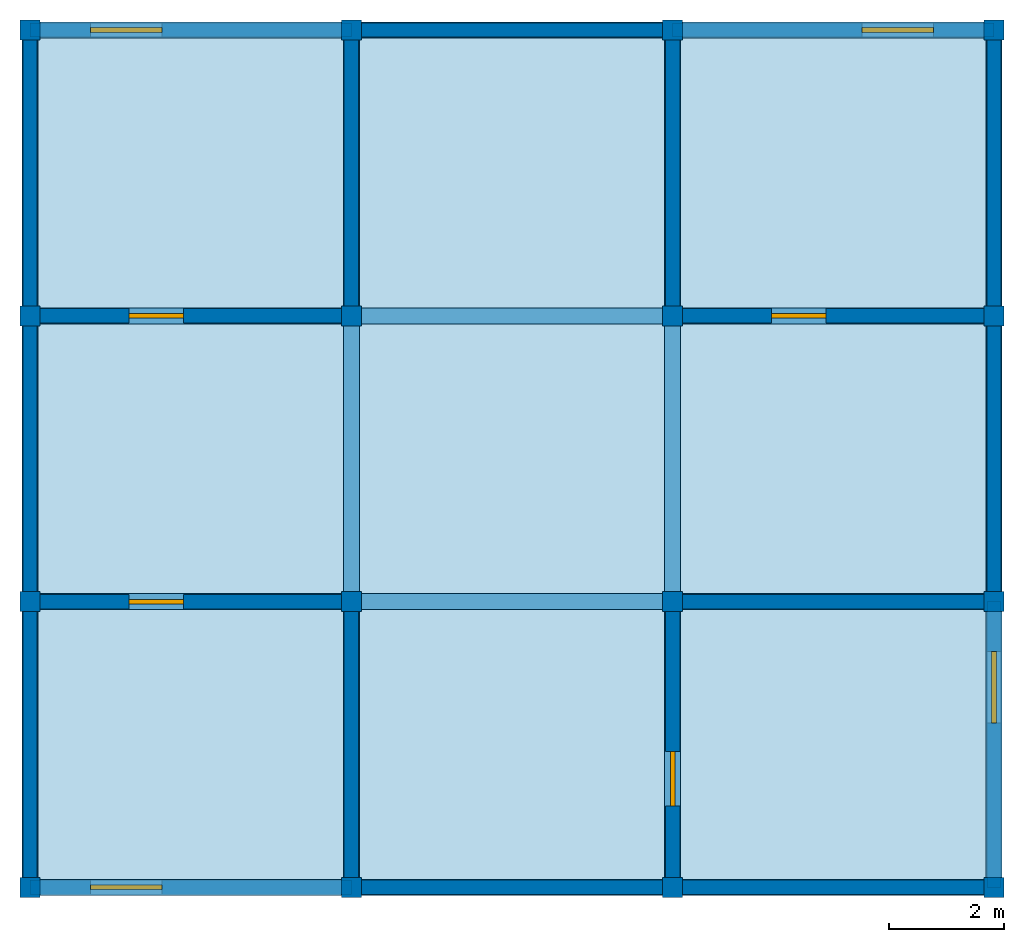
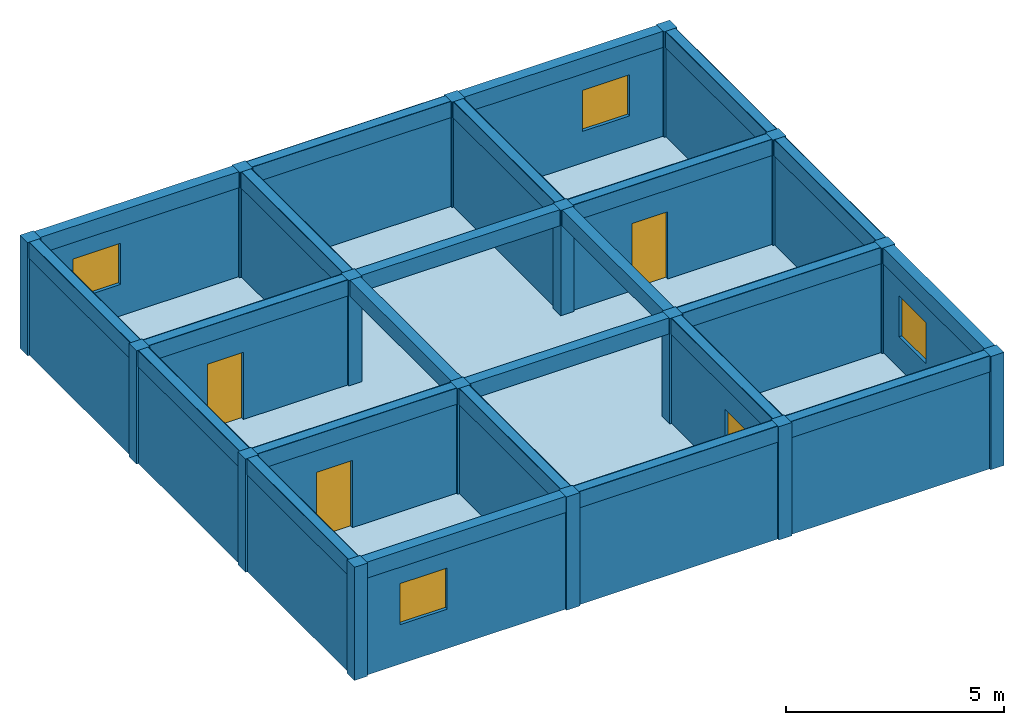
# One storey: 24 beams, 20 walls, 16 columns, 4 doors, 4 windows, 1 slab, 8 openings.
"""IFC4X3 building model written with IfcOpenShell, lengths in metres."""

import ifcopenshell
import ifcopenshell.guid

model = None  # the IFC model being written
_history = None  # IfcOwnerHistory: only IFC2X3 demands one
_inside = {}  # id of a spatial element -> (the spatial element, [elements in it])
_under = {}  # id of a project, library or spatial element -> (it, [spatial elements below it])
_declared = {}  # id of a project -> (the project, [libraries it declares])
_typed = {}  # id of a type object -> (the type object, [elements of that type])
_made_of = {}  # id of a material, layer set ... -> (it, [elements and type objects made of it])


def new_model(schema):
    """Start an empty IFC model of exactly this schema.

    Asked for "IFC4X3", IfcOpenShell would pick the latest addendum, in which some entities
    have other attributes; the version numbers below select the first issue.
    IFC2X3 requires an IfcOwnerHistory on every rooted entity: one is made here for all.
    """
    global model, _history
    if schema == "IFC4X3":
        model = ifcopenshell.file(schema_version=(4, 3, 0, 0))
    else:
        model = ifcopenshell.file(schema=schema)
    _inside.clear()
    _under.clear()
    _declared.clear()
    _typed.clear()
    _made_of.clear()
    _history = None
    if model.schema == "IFC2X3":
        org = make("IfcOrganization", Name="unknown")
        user = make(
            "IfcPersonAndOrganization",
            ThePerson=make("IfcPerson", FamilyName="unknown"),
            TheOrganization=org,
        )
        app = make(
            "IfcApplication",
            ApplicationDeveloper=org,
            Version="unknown",
            ApplicationFullName="unknown",
            ApplicationIdentifier="unknown",
        )
        _history = make(
            "IfcOwnerHistory",
            OwningUser=user,
            OwningApplication=app,
            ChangeAction="ADDED",
            CreationDate=0,
        )
    return model


def make(cls, **values):
    """One entity of the class cls with the attributes given. An attribute that is None is left unset."""
    return model.create_entity(
        cls, **{name: value for name, value in values.items() if value is not None}
    )


def rooted(cls, **values):
    """An entity with a GlobalId (a new one), such as an element, a storey or a relation."""
    return make(cls, GlobalId=ifcopenshell.guid.new(), OwnerHistory=_history, **values)


def si_unit(unit_type, name, prefix=None):
    """IfcSIUnit, for example si_unit("LENGTHUNIT", "METRE", prefix="MILLI")."""
    return make("IfcSIUnit", UnitType=unit_type, Prefix=prefix, Name=name)


def assignment(units):
    """IfcUnitAssignment: the units of a project."""
    return None if units is None else make("IfcUnitAssignment", Units=units)


def point(xyz):
    """IfcCartesianPoint."""
    return None if xyz is None else make("IfcCartesianPoint", Coordinates=xyz)


def direction(xyz):
    """IfcDirection."""
    return None if xyz is None else make("IfcDirection", DirectionRatios=xyz)


def frame(location, z_axis=None, x_axis=None):
    """IfcAxis2Placement3D, a coordinate frame: its origin and axes. An axis left out is left unset."""
    return make(
        "IfcAxis2Placement3D",
        Location=point(location),
        Axis=direction(z_axis),
        RefDirection=direction(x_axis),
    )


def frame_2d(location, x_axis=None):
    """IfcAxis2Placement2D, a coordinate frame in the plane: its origin and x axis."""
    return make(
        "IfcAxis2Placement2D", Location=point(location), RefDirection=direction(x_axis)
    )


def origin_with_axes():
    """The frame at (0, 0, 0) with the z axis (0, 0, 1) and the x axis (1, 0, 0) written out."""
    return frame((0.0, 0.0, 0.0), z_axis=(0.0, 0.0, 1.0), x_axis=(1.0, 0.0, 0.0))


def origin_2d():
    """The frame at (0, 0) in the plane with its x axis left unset."""
    return frame_2d((0.0, 0.0))


def place(relative_to, where):
    """IfcLocalPlacement: puts the frame where relative to a parent placement (None: the world)."""
    return make(
        "IfcLocalPlacement", PlacementRelTo=relative_to, RelativePlacement=where
    )


def context(
    kind, dimensions, precision=None, world=None, true_north=None, identifier=None
):
    """IfcGeometricRepresentationContext, for example the 3D "Model" context."""
    return make(
        "IfcGeometricRepresentationContext",
        ContextIdentifier=identifier,
        ContextType=kind,
        CoordinateSpaceDimension=dimensions,
        Precision=precision,
        WorldCoordinateSystem=world,
        TrueNorth=true_north,
    )


def project(units=None, contexts=None):
    """IfcProject with its units and contexts."""
    return rooted(
        "IfcProject",
        Name="project",
        RepresentationContexts=contexts,
        UnitsInContext=assignment(units),
    )


def spatial(cls, under=None, at=None, **own):
    """A site, building, storey or space (cls), placed at a placement, below another one or the project."""
    s = rooted(cls, ObjectPlacement=at, **own)
    if under is not None:
        _under.setdefault(under.id(), (under, []))[1].append(s)
    return s


def profile(cls, at=None, kind="AREA", **sizes):
    """A parametric profile (cls). Its sizes go by their IFC names, for example OverallWidth=200.0."""
    return make(cls, ProfileType=kind, Position=at, **sizes)


def rectangle(**sizes):
    """IfcRectangleProfileDef."""
    return profile("IfcRectangleProfileDef", **sizes)


def extrude(swept, where, along, depth):
    """IfcExtrudedAreaSolid: the profile swept, set in the frame where, extruded along a direction by depth."""
    return make(
        "IfcExtrudedAreaSolid",
        SweptArea=swept,
        Position=where,
        ExtrudedDirection=direction(along),
        Depth=depth,
    )


def shape(context_of_items, identifier, shape_type, items):
    """IfcShapeRepresentation: the items that make up one representation, for example the "Body"."""
    return make(
        "IfcShapeRepresentation",
        ContextOfItems=context_of_items,
        RepresentationIdentifier=identifier,
        RepresentationType=shape_type,
        Items=items,
    )


def material(Name=None, Category=None):
    """IfcMaterial."""
    return make("IfcMaterial", Name=Name, Category=Category)


def made_of(thing, what):
    """Note that an element or type object is made of a material, layer set ...; save() writes the relation."""
    if what is not None:
        _made_of.setdefault(what.id(), (what, []))[1].append(thing)
    return thing


def element(
    cls,
    number,
    at=None,
    inside=None,
    cuts=None,
    type_object=None,
    material=None,
    context=None,
    identifier="Body",
    shape_type=None,
    held_by="IfcProductDefinitionShape",
    body=None,
    shapes=None,
    **own,
):
    """One element of the class cls, such as IfcWall. Its Tag is "e" and its number.

    at: its placement. inside: the storey or other place that contains it. cuts: it is an
    opening in that element (IfcRelVoidsElement). A single representation is given by context,
    identifier, shape_type and body (its items); several are given by shapes. held_by: the class
    of the entity that holds the representations. save() writes the other relations.
    """
    e = rooted(cls, Tag="e%d" % number, ObjectPlacement=at, **own)
    if body is not None:
        shapes = [shape(context, identifier, shape_type, body)]
    if shapes is not None:
        e.Representation = make(held_by, Representations=shapes)
    if inside is not None:
        _inside.setdefault(inside.id(), (inside, []))[1].append(e)
    if cuts is not None:
        rooted(
            "IfcRelVoidsElement", RelatingBuildingElement=cuts, RelatedOpeningElement=e
        )
    if type_object is not None:
        _typed.setdefault(type_object.id(), (type_object, []))[1].append(e)
    return made_of(e, material)


def fill(opening, filler):
    """IfcRelFillsElement: the door or window that sits in an opening."""
    return rooted(
        "IfcRelFillsElement",
        RelatingOpeningElement=opening,
        RelatedBuildingElement=filler,
    )


def aggregate(whole, parts):
    """IfcRelAggregates: a whole, such as a stair, and the parts it consists of."""
    return rooted("IfcRelAggregates", RelatingObject=whole, RelatedObjects=parts)


def save(model, path):
    """Write the relations noted so far, then the file.

    IfcRelAggregates (storeys below a building ...), IfcRelContainedInSpatialStructure (elements
    in a storey), IfcRelDefinesByType, IfcRelAssociatesMaterial and IfcRelDeclares: one each for
    every whole, place, type object, material and project.
    """
    for whole, parts in _under.values():
        aggregate(whole, parts)
    for where, things in _inside.values():
        rooted(
            "IfcRelContainedInSpatialStructure",
            RelatedElements=things,
            RelatingStructure=where,
        )
    for kind, things in _typed.values():
        rooted("IfcRelDefinesByType", RelatedObjects=things, RelatingType=kind)
    for what, things in _made_of.values():
        rooted("IfcRelAssociatesMaterial", RelatedObjects=things, RelatingMaterial=what)
    for by, libraries in _declared.values():
        rooted("IfcRelDeclares", RelatingContext=by, RelatedDefinitions=libraries)
    model.write(path)


model = new_model("IFC4X3")

# Units and contexts
model_context = context("Model", 3, precision=1e-05, world=origin_with_axes())
ifc_project = project(units=[si_unit("LENGTHUNIT", "METRE"), si_unit("AREAUNIT", "SQUARE_METRE"), si_unit("VOLUMEUNIT", "CUBIC_METRE")], contexts=[model_context])

# Site, building, storey
site = spatial("IfcSite", under=ifc_project, Name="Puerto Montt Parcel", CompositionType="ELEMENT")
building = spatial("IfcBuilding", under=site, Name="Apex Hub", CompositionType="ELEMENT")
storey = spatial("IfcBuildingStorey", under=building, Name="Level 12", CompositionType="ELEMENT", Elevation=34.84)

# Columns
ifc_material_1 = material(Name="Timber")
column_1_placement = place(None, frame((-8.415, -7.485, 34.839), z_axis=(0.0, 0.0, 1.0), x_axis=(1.0, 0.0, 0.0)))
element("IfcColumn", 1, at=column_1_placement, inside=storey, material=ifc_material_1, Name="Column 12.1", ObjectType="Facade Column", PredefinedType="PILASTER", context=model_context, shape_type="SweptSolid", body=[
    extrude(rectangle(XDim=0.35, YDim=0.35, at=origin_2d()), origin_with_axes(), (0.0, 0.0, 1.0), 3.167),
])
for number, where, z_axis, x_axis, name in (
    (2, (-8.415, -2.495, 34.839), (0.0, 0.0, 1.0), (1.0, 0.0, 0.0), "Column 12.2"),
    (3, (-8.415, 2.495, 34.839), (0.0, 0.0, 1.0), (1.0, 0.0, 0.0), "Column 12.3"),
):
    element("IfcColumn", number, at=place(None, frame(where, z_axis=z_axis, x_axis=x_axis)), inside=storey, material=ifc_material_1, Name=name, ObjectType="Corner Column", PredefinedType="NOTDEFINED", context=model_context, shape_type="SweptSolid", body=[
        extrude(rectangle(XDim=0.35, YDim=0.35, at=origin_2d()), origin_with_axes(), (0.0, 0.0, 1.0), 3.167),
    ])
column_2_placement = place(None, frame((-8.415, 7.485, 34.839), z_axis=(0.0, 0.0, 1.0), x_axis=(1.0, 0.0, 0.0)))
element("IfcColumn", 4, at=column_2_placement, inside=storey, material=ifc_material_1, Name="Column 12.4", ObjectType="Corner Column", PredefinedType="COLUMN", context=model_context, shape_type="SweptSolid", body=[
    extrude(rectangle(XDim=0.35, YDim=0.35, at=origin_2d()), origin_with_axes(), (0.0, 0.0, 1.0), 3.167),
])
column_3_placement = place(None, frame((-2.805, -7.485, 34.839), z_axis=(0.0, 0.0, 1.0), x_axis=(1.0, 0.0, 0.0)))
element("IfcColumn", 5, at=column_3_placement, inside=storey, material=ifc_material_1, Name="Column 12.5", ObjectType="Core Column", PredefinedType="NOTDEFINED", context=model_context, shape_type="SweptSolid", body=[
    extrude(rectangle(XDim=0.35, YDim=0.35, at=origin_2d()), origin_with_axes(), (0.0, 0.0, 1.0), 3.167),
])
column_4_placement = place(None, frame((-2.805, -2.495, 34.839), z_axis=(0.0, 0.0, 1.0), x_axis=(1.0, 0.0, 0.0)))
element("IfcColumn", 6, at=column_4_placement, inside=storey, material=ifc_material_1, Name="Column 12.6", ObjectType="Corner Column", PredefinedType="COLUMN", context=model_context, shape_type="SweptSolid", body=[
    extrude(rectangle(XDim=0.35, YDim=0.35, at=origin_2d()), origin_with_axes(), (0.0, 0.0, 1.0), 3.167),
])
for number, where, z_axis, x_axis, name in (
    (7, (-2.805, 2.495, 34.839), (0.0, 0.0, 1.0), (1.0, 0.0, 0.0), "Column 12.7"),
    (8, (-2.805, 7.485, 34.839), (0.0, 0.0, 1.0), (1.0, 0.0, 0.0), "Column 12.8"),
):
    element("IfcColumn", number, at=place(None, frame(where, z_axis=z_axis, x_axis=x_axis)), inside=storey, material=ifc_material_1, Name=name, ObjectType="Facade Column", PredefinedType="COLUMN", context=model_context, shape_type="SweptSolid", body=[
        extrude(rectangle(XDim=0.35, YDim=0.35, at=origin_2d()), origin_with_axes(), (0.0, 0.0, 1.0), 3.167),
    ])
column_5_placement = place(None, frame((2.805, -7.485, 34.839), z_axis=(0.0, 0.0, 1.0), x_axis=(1.0, 0.0, 0.0)))
element("IfcColumn", 9, at=column_5_placement, inside=storey, material=ifc_material_1, Name="Column 12.9", ObjectType="Corner Column", PredefinedType="COLUMN", context=model_context, shape_type="SweptSolid", body=[
    extrude(rectangle(XDim=0.35, YDim=0.35, at=origin_2d()), origin_with_axes(), (0.0, 0.0, 1.0), 3.167),
])
column_6_placement = place(None, frame((2.805, -2.495, 34.839), z_axis=(0.0, 0.0, 1.0), x_axis=(1.0, 0.0, 0.0)))
element("IfcColumn", 10, at=column_6_placement, inside=storey, material=ifc_material_1, Name="Column 12.10", ObjectType="Corner Column", PredefinedType="NOTDEFINED", context=model_context, shape_type="SweptSolid", body=[
    extrude(rectangle(XDim=0.35, YDim=0.35, at=origin_2d()), origin_with_axes(), (0.0, 0.0, 1.0), 3.167),
])
column_7_placement = place(None, frame((2.805, 2.495, 34.839), z_axis=(0.0, 0.0, 1.0), x_axis=(1.0, 0.0, 0.0)))
element("IfcColumn", 11, at=column_7_placement, inside=storey, material=ifc_material_1, Name="Column 12.11", ObjectType="Facade Column", PredefinedType="COLUMN", context=model_context, shape_type="SweptSolid", body=[
    extrude(rectangle(XDim=0.35, YDim=0.35, at=origin_2d()), origin_with_axes(), (0.0, 0.0, 1.0), 3.167),
])
column_8_placement = place(None, frame((2.805, 7.485, 34.839), z_axis=(0.0, 0.0, 1.0), x_axis=(1.0, 0.0, 0.0)))
element("IfcColumn", 12, at=column_8_placement, inside=storey, material=ifc_material_1, Name="Column 12.12", ObjectType="Facade Column", PredefinedType="NOTDEFINED", context=model_context, shape_type="SweptSolid", body=[
    extrude(rectangle(XDim=0.35, YDim=0.35, at=origin_2d()), origin_with_axes(), (0.0, 0.0, 1.0), 3.167),
])
for number, where, z_axis, x_axis, name in (
    (13, (8.415, -7.485, 34.839), (0.0, 0.0, 1.0), (1.0, 0.0, 0.0), "Column 12.13"),
    (14, (8.415, -2.495, 34.839), (0.0, 0.0, 1.0), (1.0, 0.0, 0.0), "Column 12.14"),
):
    element("IfcColumn", number, at=place(None, frame(where, z_axis=z_axis, x_axis=x_axis)), inside=storey, material=ifc_material_1, Name=name, ObjectType="Corner Column", PredefinedType="COLUMN", context=model_context, shape_type="SweptSolid", body=[
        extrude(rectangle(XDim=0.35, YDim=0.35, at=origin_2d()), origin_with_axes(), (0.0, 0.0, 1.0), 3.167),
    ])
column_9_placement = place(None, frame((8.415, 2.495, 34.839), z_axis=(0.0, 0.0, 1.0), x_axis=(1.0, 0.0, 0.0)))
element("IfcColumn", 15, at=column_9_placement, inside=storey, material=ifc_material_1, Name="Column 12.15", ObjectType="Core Column", PredefinedType="USERDEFINED", context=model_context, shape_type="SweptSolid", body=[
    extrude(rectangle(XDim=0.35, YDim=0.35, at=origin_2d()), origin_with_axes(), (0.0, 0.0, 1.0), 3.167),
])
column_10_placement = place(None, frame((8.415, 7.485, 34.839), z_axis=(0.0, 0.0, 1.0), x_axis=(1.0, 0.0, 0.0)))
element("IfcColumn", 16, at=column_10_placement, inside=storey, material=ifc_material_1, Name="Column 12.16", ObjectType="Structural Column", PredefinedType="PILASTER", context=model_context, shape_type="SweptSolid", body=[
    extrude(rectangle(XDim=0.35, YDim=0.35, at=origin_2d()), origin_with_axes(), (0.0, 0.0, 1.0), 3.167),
])

# Beams
ifc_material_2 = material(Name="Concrete")
beam_1_placement = place(None, frame((-5.61, -7.485, 37.556), z_axis=(0.0, 0.0, 1.0), x_axis=(1.0, 0.0, 0.0)))
element("IfcBeam", 17, at=beam_1_placement, inside=storey, material=ifc_material_2, Name="Beam 12.1", ObjectType="Primary Beam", PredefinedType="JOIST", context=model_context, shape_type="SweptSolid", body=[
    extrude(rectangle(XDim=5.61, YDim=0.28, at=origin_2d()), origin_with_axes(), (0.0, 0.0, 1.0), 0.45),
])
beam_2_placement = place(None, frame((0.0, -7.485, 37.556), z_axis=(0.0, 0.0, 1.0), x_axis=(1.0, 0.0, 0.0)))
element("IfcBeam", 18, at=beam_2_placement, inside=storey, material=ifc_material_2, Name="Beam 12.2", ObjectType="Ridge Beam", PredefinedType="T_BEAM", context=model_context, shape_type="SweptSolid", body=[
    extrude(rectangle(XDim=5.61, YDim=0.28, at=origin_2d()), origin_with_axes(), (0.0, 0.0, 1.0), 0.45),
])
beam_3_placement = place(None, frame((5.61, -7.485, 37.556), z_axis=(0.0, 0.0, 1.0), x_axis=(1.0, 0.0, 0.0)))
element("IfcBeam", 19, at=beam_3_placement, inside=storey, material=ifc_material_2, Name="Beam 12.3", ObjectType="Primary Beam", PredefinedType="HOLLOWCORE", context=model_context, shape_type="SweptSolid", body=[
    extrude(rectangle(XDim=5.61, YDim=0.28, at=origin_2d()), origin_with_axes(), (0.0, 0.0, 1.0), 0.45),
])
beam_4_placement = place(None, frame((-5.61, -2.495, 37.556), z_axis=(0.0, 0.0, 1.0), x_axis=(1.0, 0.0, 0.0)))
element("IfcBeam", 20, at=beam_4_placement, inside=storey, material=ifc_material_2, Name="Beam 12.4", ObjectType="Secondary Beam", PredefinedType="USERDEFINED", context=model_context, shape_type="SweptSolid", body=[
    extrude(rectangle(XDim=5.61, YDim=0.28, at=origin_2d()), origin_with_axes(), (0.0, 0.0, 1.0), 0.45),
])
beam_5_placement = place(None, frame((0.0, -2.495, 37.556), z_axis=(0.0, 0.0, 1.0), x_axis=(1.0, 0.0, 0.0)))
element("IfcBeam", 21, at=beam_5_placement, inside=storey, material=ifc_material_2, Name="Beam 12.5", ObjectType="Transfer Beam", PredefinedType="BEAM", context=model_context, shape_type="SweptSolid", body=[
    extrude(rectangle(XDim=5.61, YDim=0.28, at=origin_2d()), origin_with_axes(), (0.0, 0.0, 1.0), 0.45),
])
beam_6_placement = place(None, frame((5.61, -2.495, 37.556), z_axis=(0.0, 0.0, 1.0), x_axis=(1.0, 0.0, 0.0)))
element("IfcBeam", 22, at=beam_6_placement, inside=storey, material=ifc_material_2, Name="Beam 12.6", ObjectType="Ridge Beam", PredefinedType="SPANDREL", context=model_context, shape_type="SweptSolid", body=[
    extrude(rectangle(XDim=5.61, YDim=0.28, at=origin_2d()), origin_with_axes(), (0.0, 0.0, 1.0), 0.45),
])
beam_7_placement = place(None, frame((-5.61, 2.495, 37.556), z_axis=(0.0, 0.0, 1.0), x_axis=(1.0, 0.0, 0.0)))
element("IfcBeam", 23, at=beam_7_placement, inside=storey, material=ifc_material_2, Name="Beam 12.7", ObjectType="Rafter Beam", PredefinedType="BEAM", context=model_context, shape_type="SweptSolid", body=[
    extrude(rectangle(XDim=5.61, YDim=0.28, at=origin_2d()), origin_with_axes(), (0.0, 0.0, 1.0), 0.45),
])
beam_8_placement = place(None, frame((0.0, 2.495, 37.556), z_axis=(0.0, 0.0, 1.0), x_axis=(1.0, 0.0, 0.0)))
element("IfcBeam", 24, at=beam_8_placement, inside=storey, material=ifc_material_2, Name="Beam 12.8", ObjectType="Rafter Beam", PredefinedType="USERDEFINED", context=model_context, shape_type="SweptSolid", body=[
    extrude(rectangle(XDim=5.61, YDim=0.28, at=origin_2d()), origin_with_axes(), (0.0, 0.0, 1.0), 0.45),
])
for number, where, z_axis, x_axis, name in (
    (25, (5.61, 2.495, 37.556), (0.0, 0.0, 1.0), (1.0, 0.0, 0.0), "Beam 12.9"),
    (26, (-5.61, 7.485, 37.556), (0.0, 0.0, 1.0), (1.0, 0.0, 0.0), "Beam 12.10"),
    (27, (0.0, 7.485, 37.556), (0.0, 0.0, 1.0), (1.0, 0.0, 0.0), "Beam 12.11"),
):
    element("IfcBeam", number, at=place(None, frame(where, z_axis=z_axis, x_axis=x_axis)), inside=storey, material=ifc_material_2, Name=name, ObjectType="Ridge Beam", PredefinedType="BEAM", context=model_context, shape_type="SweptSolid", body=[
        extrude(rectangle(XDim=5.61, YDim=0.28, at=origin_2d()), origin_with_axes(), (0.0, 0.0, 1.0), 0.45),
    ])
beam_9_placement = place(None, frame((5.61, 7.485, 37.556), z_axis=(0.0, 0.0, 1.0), x_axis=(1.0, 0.0, 0.0)))
element("IfcBeam", 28, at=beam_9_placement, inside=storey, material=ifc_material_2, Name="Beam 12.12", ObjectType="Rafter Beam", PredefinedType="NOTDEFINED", context=model_context, shape_type="SweptSolid", body=[
    extrude(rectangle(XDim=5.61, YDim=0.28, at=origin_2d()), origin_with_axes(), (0.0, 0.0, 1.0), 0.45),
])
beam_10_placement = place(None, frame((-8.415, -4.99, 37.556), z_axis=(0.0, 0.0, 1.0), x_axis=(0.0, 1.0, 0.0)))
element("IfcBeam", 29, at=beam_10_placement, inside=storey, material=ifc_material_2, Name="Beam 12.13", ObjectType="Primary Beam", PredefinedType="HOLLOWCORE", context=model_context, shape_type="SweptSolid", body=[
    extrude(rectangle(XDim=4.99, YDim=0.28, at=origin_2d()), origin_with_axes(), (0.0, 0.0, 1.0), 0.45),
])
beam_11_placement = place(None, frame((-8.415, 0.0, 37.556), z_axis=(0.0, 0.0, 1.0), x_axis=(0.0, 1.0, 0.0)))
element("IfcBeam", 30, at=beam_11_placement, inside=storey, material=ifc_material_2, Name="Beam 12.14", ObjectType="Rafter Beam", PredefinedType="JOIST", context=model_context, shape_type="SweptSolid", body=[
    extrude(rectangle(XDim=4.99, YDim=0.28, at=origin_2d()), origin_with_axes(), (0.0, 0.0, 1.0), 0.45),
])
beam_12_placement = place(None, frame((-8.415, 4.99, 37.556), z_axis=(0.0, 0.0, 1.0), x_axis=(0.0, 1.0, 0.0)))
element("IfcBeam", 31, at=beam_12_placement, inside=storey, material=ifc_material_2, Name="Beam 12.15", ObjectType="Primary Beam", PredefinedType="SPANDREL", context=model_context, shape_type="SweptSolid", body=[
    extrude(rectangle(XDim=4.99, YDim=0.28, at=origin_2d()), origin_with_axes(), (0.0, 0.0, 1.0), 0.45),
])
beam_13_placement = place(None, frame((-2.805, -4.99, 37.556), z_axis=(0.0, 0.0, 1.0), x_axis=(0.0, 1.0, 0.0)))
element("IfcBeam", 32, at=beam_13_placement, inside=storey, material=ifc_material_2, Name="Beam 12.16", ObjectType="Transfer Beam", PredefinedType="BEAM", context=model_context, shape_type="SweptSolid", body=[
    extrude(rectangle(XDim=4.99, YDim=0.28, at=origin_2d()), origin_with_axes(), (0.0, 0.0, 1.0), 0.45),
])
beam_14_placement = place(None, frame((-2.805, 0.0, 37.556), z_axis=(0.0, 0.0, 1.0), x_axis=(0.0, 1.0, 0.0)))
element("IfcBeam", 33, at=beam_14_placement, inside=storey, material=ifc_material_2, Name="Beam 12.17", ObjectType="Primary Beam", PredefinedType="JOIST", context=model_context, shape_type="SweptSolid", body=[
    extrude(rectangle(XDim=4.99, YDim=0.28, at=origin_2d()), origin_with_axes(), (0.0, 0.0, 1.0), 0.45),
])
beam_15_placement = place(None, frame((-2.805, 4.99, 37.556), z_axis=(0.0, 0.0, 1.0), x_axis=(0.0, 1.0, 0.0)))
element("IfcBeam", 34, at=beam_15_placement, inside=storey, material=ifc_material_2, Name="Beam 12.18", ObjectType="Primary Beam", PredefinedType="LINTEL", context=model_context, shape_type="SweptSolid", body=[
    extrude(rectangle(XDim=4.99, YDim=0.28, at=origin_2d()), origin_with_axes(), (0.0, 0.0, 1.0), 0.45),
])
beam_16_placement = place(None, frame((2.805, -4.99, 37.556), z_axis=(0.0, 0.0, 1.0), x_axis=(0.0, 1.0, 0.0)))
element("IfcBeam", 35, at=beam_16_placement, inside=storey, material=ifc_material_2, Name="Beam 12.19", ObjectType="Primary Beam", PredefinedType="SPANDREL", context=model_context, shape_type="SweptSolid", body=[
    extrude(rectangle(XDim=4.99, YDim=0.28, at=origin_2d()), origin_with_axes(), (0.0, 0.0, 1.0), 0.45),
])
beam_17_placement = place(None, frame((2.805, 0.0, 37.556), z_axis=(0.0, 0.0, 1.0), x_axis=(0.0, 1.0, 0.0)))
element("IfcBeam", 36, at=beam_17_placement, inside=storey, material=ifc_material_2, Name="Beam 12.20", ObjectType="Transfer Beam", PredefinedType="HOLLOWCORE", context=model_context, shape_type="SweptSolid", body=[
    extrude(rectangle(XDim=4.99, YDim=0.28, at=origin_2d()), origin_with_axes(), (0.0, 0.0, 1.0), 0.45),
])
beam_18_placement = place(None, frame((2.805, 4.99, 37.556), z_axis=(0.0, 0.0, 1.0), x_axis=(0.0, 1.0, 0.0)))
element("IfcBeam", 37, at=beam_18_placement, inside=storey, material=ifc_material_2, Name="Beam 12.21", ObjectType="Rafter Beam", PredefinedType="T_BEAM", context=model_context, shape_type="SweptSolid", body=[
    extrude(rectangle(XDim=4.99, YDim=0.28, at=origin_2d()), origin_with_axes(), (0.0, 0.0, 1.0), 0.45),
])
beam_19_placement = place(None, frame((8.415, -4.99, 37.556), z_axis=(0.0, 0.0, 1.0), x_axis=(0.0, 1.0, 0.0)))
element("IfcBeam", 38, at=beam_19_placement, inside=storey, material=ifc_material_2, Name="Beam 12.22", ObjectType="Transfer Beam", PredefinedType="SPANDREL", context=model_context, shape_type="SweptSolid", body=[
    extrude(rectangle(XDim=4.99, YDim=0.28, at=origin_2d()), origin_with_axes(), (0.0, 0.0, 1.0), 0.45),
])
beam_20_placement = place(None, frame((8.415, 0.0, 37.556), z_axis=(0.0, 0.0, 1.0), x_axis=(0.0, 1.0, 0.0)))
element("IfcBeam", 39, at=beam_20_placement, inside=storey, material=ifc_material_2, Name="Beam 12.23", ObjectType="Transfer Beam", PredefinedType="BEAM", context=model_context, shape_type="SweptSolid", body=[
    extrude(rectangle(XDim=4.99, YDim=0.28, at=origin_2d()), origin_with_axes(), (0.0, 0.0, 1.0), 0.45),
])
beam_21_placement = place(None, frame((8.415, 4.99, 37.556), z_axis=(0.0, 0.0, 1.0), x_axis=(0.0, 1.0, 0.0)))
element("IfcBeam", 40, at=beam_21_placement, inside=storey, material=ifc_material_2, Name="Beam 12.24", ObjectType="Transfer Beam", PredefinedType="NOTDEFINED", context=model_context, shape_type="SweptSolid", body=[
    extrude(rectangle(XDim=4.99, YDim=0.28, at=origin_2d()), origin_with_axes(), (0.0, 0.0, 1.0), 0.45),
])

# Slab
slab_placement = place(None, frame((0.0, 0.0, 34.84), z_axis=(0.0, 0.0, 1.0), x_axis=(1.0, 0.0, 0.0)))
element("IfcSlab", 41, at=slab_placement, inside=storey, material=ifc_material_2, Name="Slab 12", ObjectType="Roof Slab", PredefinedType="ROOF", context=model_context, shape_type="SweptSolid", body=[
    extrude(rectangle(XDim=16.83, YDim=14.97, at=origin_2d()), origin_with_axes(), (0.0, 0.0, 1.0), 0.22),
])

# Wall, opening, door
ifc_material_3 = material(Name="Gypsum")
wall_1_placement = place(None, frame((-5.61, -2.495, 34.839), z_axis=(0.0, 0.0, 1.0), x_axis=(1.0, 0.0, 0.0)))
wall_1 = element("IfcWall", 42, at=wall_1_placement, inside=storey, material=ifc_material_3, Name="Wall 12.1", ObjectType="Corridor Partition", PredefinedType="POLYGONAL", context=model_context, shape_type="SweptSolid", body=[
    extrude(rectangle(XDim=5.61, YDim=0.252121, at=origin_2d()), origin_with_axes(), (0.0, 0.0, 1.0), 3.167),
])
opening_1_placement = place(None, frame((-6.21, -2.495, 34.839), z_axis=(0.0, 0.0, 1.0), x_axis=(1.0, 0.0, 0.0)))
opening_1 = element("IfcOpeningElement", 43, at=opening_1_placement, cuts=wall_1, Name="Door opening 12.1", ObjectType="Door Opening", PredefinedType="OPENING", context=model_context, shape_type="SweptSolid", body=[
    extrude(rectangle(XDim=0.95, YDim=0.332121, at=origin_2d()), origin_with_axes(), (0.0, 0.0, 1.0), 2.1),
])
door_1_placement = place(None, frame((-6.21, -2.495, 34.839), z_axis=(0.0, 0.0, 1.0), x_axis=(1.0, 0.0, 0.0)))
door_1 = element("IfcDoor", 44, at=door_1_placement, inside=storey, Name="Door 12.1", ObjectType="Interior Door", OverallHeight=2.1, OverallWidth=0.95, context=model_context, shape_type="SweptSolid", body=[
    extrude(rectangle(XDim=0.95, YDim=0.08, at=origin_2d()), origin_with_axes(), (0.0, 0.0, 1.0), 2.1),
])
fill(opening_1, door_1)

# Wall
wall_2_placement = place(None, frame((-2.805, -4.99, 34.839), z_axis=(0.0, 0.0, 1.0), x_axis=(0.0, 1.0, 0.0)))
element("IfcWall", 45, at=wall_2_placement, inside=storey, material=ifc_material_3, Name="Wall 12.2", ObjectType="Corridor Partition", PredefinedType="PLUMBINGWALL", context=model_context, shape_type="SweptSolid", body=[
    extrude(rectangle(XDim=4.99, YDim=0.252121, at=origin_2d()), origin_with_axes(), (0.0, 0.0, 1.0), 3.167),
])

# Wall, opening, window
ifc_material_4 = material(Name="Brick")
wall_3_placement = place(None, frame((-5.61, -7.485, 34.839), z_axis=(0.0, 0.0, 1.0), x_axis=(1.0, 0.0, 0.0)))
wall_3 = element("IfcWall", 46, at=wall_3_placement, inside=storey, material=ifc_material_4, Name="Wall 12.3", ObjectType="Exterior Wall", PredefinedType="SHEAR", context=model_context, shape_type="SweptSolid", body=[
    extrude(rectangle(XDim=5.61, YDim=0.252121, at=origin_2d()), origin_with_axes(), (0.0, 0.0, 1.0), 3.167),
])
opening_2_placement = place(None, frame((-6.732, -7.485, 35.939), z_axis=(0.0, 0.0, 1.0), x_axis=(1.0, 0.0, 0.0)))
opening_2 = element("IfcOpeningElement", 47, at=opening_2_placement, cuts=wall_3, Name="Window opening 12.2", ObjectType="Window Opening", PredefinedType="OPENING", context=model_context, shape_type="SweptSolid", body=[
    extrude(rectangle(XDim=1.25, YDim=0.332121, at=origin_2d()), origin_with_axes(), (0.0, 0.0, 1.0), 1.15),
])
window_1_placement = place(None, frame((-6.732, -7.485, 35.939), z_axis=(0.0, 0.0, 1.0), x_axis=(1.0, 0.0, 0.0)))
window_1 = element("IfcWindow", 48, at=window_1_placement, inside=storey, Name="Window 12.2", ObjectType="Louvre Window", OverallHeight=1.15, OverallWidth=1.25, context=model_context, shape_type="SweptSolid", body=[
    extrude(rectangle(XDim=1.25, YDim=0.08, at=origin_2d()), origin_with_axes(), (0.0, 0.0, 1.0), 1.15),
])
fill(opening_2, window_1)

# Wall
wall_4_placement = place(None, frame((-8.415, -4.99, 34.839), z_axis=(0.0, 0.0, 1.0), x_axis=(0.0, 1.0, 0.0)))
element("IfcWall", 49, at=wall_4_placement, inside=storey, material=ifc_material_2, Name="Wall 12.4", ObjectType="Exterior Wall", PredefinedType="USERDEFINED", context=model_context, shape_type="SweptSolid", body=[
    extrude(rectangle(XDim=4.99, YDim=0.252121, at=origin_2d()), origin_with_axes(), (0.0, 0.0, 1.0), 3.167),
])

# Wall, opening, door
ifc_material_5 = material(Name="CLT")
wall_5_placement = place(None, frame((2.805, -4.99, 34.839), z_axis=(0.0, 0.0, 1.0), x_axis=(0.0, 1.0, 0.0)))
wall_5 = element("IfcWall", 50, at=wall_5_placement, inside=storey, material=ifc_material_5, Name="Wall 12.5", ObjectType="Corridor Partition", PredefinedType="NOTDEFINED", context=model_context, shape_type="SweptSolid", body=[
    extrude(rectangle(XDim=4.99, YDim=0.252121, at=origin_2d()), origin_with_axes(), (0.0, 0.0, 1.0), 3.167),
])
opening_3_placement = place(None, frame((2.805, -5.59, 34.839), z_axis=(0.0, 0.0, 1.0), x_axis=(0.0, 1.0, 0.0)))
opening_3 = element("IfcOpeningElement", 51, at=opening_3_placement, cuts=wall_5, Name="Door opening 12.3", ObjectType="Door Opening", PredefinedType="OPENING", context=model_context, shape_type="SweptSolid", body=[
    extrude(rectangle(XDim=0.95, YDim=0.332121, at=origin_2d()), origin_with_axes(), (0.0, 0.0, 1.0), 2.1),
])
door_2_placement = place(None, frame((2.805, -5.59, 34.839), z_axis=(0.0, 0.0, 1.0), x_axis=(0.0, 1.0, 0.0)))
door_2 = element("IfcDoor", 52, at=door_2_placement, inside=storey, Name="Door 12.3", ObjectType="Fire Door", OverallHeight=2.1, OverallWidth=0.95, context=model_context, shape_type="SweptSolid", body=[
    extrude(rectangle(XDim=0.95, YDim=0.08, at=origin_2d()), origin_with_axes(), (0.0, 0.0, 1.0), 2.1),
])
fill(opening_3, door_2)

# Walls
wall_6_placement = place(None, frame((0.0, -7.485, 34.839), z_axis=(0.0, 0.0, 1.0), x_axis=(1.0, 0.0, 0.0)))
element("IfcWall", 53, at=wall_6_placement, inside=storey, material=ifc_material_5, Name="Wall 12.6", ObjectType="Exterior Wall", PredefinedType="PLUMBINGWALL", context=model_context, shape_type="SweptSolid", body=[
    extrude(rectangle(XDim=5.61, YDim=0.252121, at=origin_2d()), origin_with_axes(), (0.0, 0.0, 1.0), 3.167),
])
wall_7_placement = place(None, frame((5.61, -2.495, 34.839), z_axis=(0.0, 0.0, 1.0), x_axis=(1.0, 0.0, 0.0)))
element("IfcWall", 54, at=wall_7_placement, inside=storey, material=ifc_material_3, Name="Wall 12.7", ObjectType="Corridor Partition", PredefinedType="POLYGONAL", context=model_context, shape_type="SweptSolid", body=[
    extrude(rectangle(XDim=5.61, YDim=0.252121, at=origin_2d()), origin_with_axes(), (0.0, 0.0, 1.0), 3.167),
])

# Wall, opening, window
wall_8_placement = place(None, frame((8.415, -4.99, 34.839), z_axis=(0.0, 0.0, 1.0), x_axis=(0.0, 1.0, 0.0)))
wall_8 = element("IfcWall", 55, at=wall_8_placement, inside=storey, material=ifc_material_4, Name="Wall 12.8", ObjectType="Exterior Wall", PredefinedType="STANDARD", context=model_context, shape_type="SweptSolid", body=[
    extrude(rectangle(XDim=4.99, YDim=0.252121, at=origin_2d()), origin_with_axes(), (0.0, 0.0, 1.0), 3.167),
])
opening_4_placement = place(None, frame((8.415, -3.992, 35.939), z_axis=(0.0, 0.0, 1.0), x_axis=(0.0, 1.0, 0.0)))
opening_4 = element("IfcOpeningElement", 56, at=opening_4_placement, cuts=wall_8, Name="Window opening 12.4", ObjectType="Window Opening", PredefinedType="OPENING", context=model_context, shape_type="SweptSolid", body=[
    extrude(rectangle(XDim=1.25, YDim=0.332121, at=origin_2d()), origin_with_axes(), (0.0, 0.0, 1.0), 1.15),
])
window_2_placement = place(None, frame((8.415, -3.992, 35.939), z_axis=(0.0, 0.0, 1.0), x_axis=(0.0, 1.0, 0.0)))
window_2 = element("IfcWindow", 57, at=window_2_placement, inside=storey, Name="Window 12.4", ObjectType="Curtain Window", OverallHeight=1.15, OverallWidth=1.25, context=model_context, shape_type="SweptSolid", body=[
    extrude(rectangle(XDim=1.25, YDim=0.08, at=origin_2d()), origin_with_axes(), (0.0, 0.0, 1.0), 1.15),
])
fill(opening_4, window_2)

# Wall
wall_9_placement = place(None, frame((5.61, -7.485, 34.839), z_axis=(0.0, 0.0, 1.0), x_axis=(1.0, 0.0, 0.0)))
element("IfcWall", 58, at=wall_9_placement, inside=storey, material=ifc_material_2, Name="Wall 12.9", ObjectType="Exterior Wall", PredefinedType="STANDARD", context=model_context, shape_type="SweptSolid", body=[
    extrude(rectangle(XDim=5.61, YDim=0.252121, at=origin_2d()), origin_with_axes(), (0.0, 0.0, 1.0), 3.167),
])

# Wall, opening, door
wall_10_placement = place(None, frame((-5.61, 2.495, 34.839), z_axis=(0.0, 0.0, 1.0), x_axis=(1.0, 0.0, 0.0)))
wall_10 = element("IfcWall", 59, at=wall_10_placement, inside=storey, material=ifc_material_3, Name="Wall 12.10", ObjectType="Corridor Partition", PredefinedType="USERDEFINED", context=model_context, shape_type="SweptSolid", body=[
    extrude(rectangle(XDim=5.61, YDim=0.252121, at=origin_2d()), origin_with_axes(), (0.0, 0.0, 1.0), 3.167),
])
opening_5_placement = place(None, frame((-6.21, 2.495, 34.839), z_axis=(0.0, 0.0, 1.0), x_axis=(1.0, 0.0, 0.0)))
opening_5 = element("IfcOpeningElement", 60, at=opening_5_placement, cuts=wall_10, Name="Door opening 12.5", ObjectType="Door Opening", PredefinedType="OPENING", context=model_context, shape_type="SweptSolid", body=[
    extrude(rectangle(XDim=0.95, YDim=0.332121, at=origin_2d()), origin_with_axes(), (0.0, 0.0, 1.0), 2.1),
])
door_3_placement = place(None, frame((-6.21, 2.495, 34.839), z_axis=(0.0, 0.0, 1.0), x_axis=(1.0, 0.0, 0.0)))
door_3 = element("IfcDoor", 61, at=door_3_placement, inside=storey, Name="Door 12.5", ObjectType="Interior Door", OverallHeight=2.1, OverallWidth=0.95, context=model_context, shape_type="SweptSolid", body=[
    extrude(rectangle(XDim=0.95, YDim=0.08, at=origin_2d()), origin_with_axes(), (0.0, 0.0, 1.0), 2.1),
])
fill(opening_5, door_3)

# Wall
wall_11_placement = place(None, frame((-8.415, 0.0, 34.839), z_axis=(0.0, 0.0, 1.0), x_axis=(0.0, 1.0, 0.0)))
element("IfcWall", 62, at=wall_11_placement, inside=storey, material=ifc_material_5, Name="Wall 12.11", ObjectType="Exterior Wall", PredefinedType="ELEMENTEDWALL", context=model_context, shape_type="SweptSolid", body=[
    extrude(rectangle(XDim=4.99, YDim=0.252121, at=origin_2d()), origin_with_axes(), (0.0, 0.0, 1.0), 3.167),
])

# Wall, opening, door
wall_12_placement = place(None, frame((5.61, 2.495, 34.839), z_axis=(0.0, 0.0, 1.0), x_axis=(1.0, 0.0, 0.0)))
wall_12 = element("IfcWall", 63, at=wall_12_placement, inside=storey, material=ifc_material_5, Name="Wall 12.12", ObjectType="Corridor Partition", PredefinedType="STANDARD", context=model_context, shape_type="SweptSolid", body=[
    extrude(rectangle(XDim=5.61, YDim=0.252121, at=origin_2d()), origin_with_axes(), (0.0, 0.0, 1.0), 3.167),
])
opening_6_placement = place(None, frame((5.01, 2.495, 34.839), z_axis=(0.0, 0.0, 1.0), x_axis=(1.0, 0.0, 0.0)))
opening_6 = element("IfcOpeningElement", 64, at=opening_6_placement, cuts=wall_12, Name="Door opening 12.7", ObjectType="Door Opening", PredefinedType="OPENING", context=model_context, shape_type="SweptSolid", body=[
    extrude(rectangle(XDim=0.95, YDim=0.332121, at=origin_2d()), origin_with_axes(), (0.0, 0.0, 1.0), 2.1),
])
door_4_placement = place(None, frame((5.01, 2.495, 34.839), z_axis=(0.0, 0.0, 1.0), x_axis=(1.0, 0.0, 0.0)))
door_4 = element("IfcDoor", 65, at=door_4_placement, inside=storey, Name="Door 12.7", ObjectType="Entry Door", OverallHeight=2.1, OverallWidth=0.95, context=model_context, shape_type="SweptSolid", body=[
    extrude(rectangle(XDim=0.95, YDim=0.08, at=origin_2d()), origin_with_axes(), (0.0, 0.0, 1.0), 2.1),
])
fill(opening_6, door_4)

# Wall
wall_13_placement = place(None, frame((8.415, 0.0, 34.839), z_axis=(0.0, 0.0, 1.0), x_axis=(0.0, 1.0, 0.0)))
element("IfcWall", 66, at=wall_13_placement, inside=storey, material=ifc_material_2, Name="Wall 12.13", ObjectType="Exterior Wall", PredefinedType="PARTITIONING", context=model_context, shape_type="SweptSolid", body=[
    extrude(rectangle(XDim=4.99, YDim=0.252121, at=origin_2d()), origin_with_axes(), (0.0, 0.0, 1.0), 3.167),
])

# Wall, opening, window
wall_14_placement = place(None, frame((-5.61, 7.485, 34.839), z_axis=(0.0, 0.0, 1.0), x_axis=(1.0, 0.0, 0.0)))
wall_14 = element("IfcWall", 67, at=wall_14_placement, inside=storey, material=ifc_material_5, Name="Wall 12.14", ObjectType="Exterior Wall", PredefinedType="SHEAR", context=model_context, shape_type="SweptSolid", body=[
    extrude(rectangle(XDim=5.61, YDim=0.252121, at=origin_2d()), origin_with_axes(), (0.0, 0.0, 1.0), 3.167),
])
opening_7_placement = place(None, frame((-6.732, 7.485, 35.939), z_axis=(0.0, 0.0, 1.0), x_axis=(1.0, 0.0, 0.0)))
opening_7 = element("IfcOpeningElement", 68, at=opening_7_placement, cuts=wall_14, Name="Window opening 12.6", ObjectType="Window Opening", PredefinedType="OPENING", context=model_context, shape_type="SweptSolid", body=[
    extrude(rectangle(XDim=1.25, YDim=0.332121, at=origin_2d()), origin_with_axes(), (0.0, 0.0, 1.0), 1.15),
])
window_3_placement = place(None, frame((-6.732, 7.485, 35.939), z_axis=(0.0, 0.0, 1.0), x_axis=(1.0, 0.0, 0.0)))
window_3 = element("IfcWindow", 69, at=window_3_placement, inside=storey, Name="Window 12.6", ObjectType="Operable Window", OverallHeight=1.15, OverallWidth=1.25, context=model_context, shape_type="SweptSolid", body=[
    extrude(rectangle(XDim=1.25, YDim=0.08, at=origin_2d()), origin_with_axes(), (0.0, 0.0, 1.0), 1.15),
])
fill(opening_7, window_3)

# Walls
wall_15_placement = place(None, frame((-2.805, 4.99, 34.839), z_axis=(0.0, 0.0, 1.0), x_axis=(0.0, 1.0, 0.0)))
element("IfcWall", 70, at=wall_15_placement, inside=storey, material=ifc_material_5, Name="Wall 12.15", ObjectType="Corridor Partition", PredefinedType="MOVABLE", context=model_context, shape_type="SweptSolid", body=[
    extrude(rectangle(XDim=4.99, YDim=0.252121, at=origin_2d()), origin_with_axes(), (0.0, 0.0, 1.0), 3.167),
])
wall_16_placement = place(None, frame((-8.415, 4.99, 34.839), z_axis=(0.0, 0.0, 1.0), x_axis=(0.0, 1.0, 0.0)))
element("IfcWall", 71, at=wall_16_placement, inside=storey, material=ifc_material_5, Name="Wall 12.16", ObjectType="Exterior Wall", PredefinedType="PARAPET", context=model_context, shape_type="SweptSolid", body=[
    extrude(rectangle(XDim=4.99, YDim=0.252121, at=origin_2d()), origin_with_axes(), (0.0, 0.0, 1.0), 3.167),
])
wall_17_placement = place(None, frame((0.0, 7.485, 34.839), z_axis=(0.0, 0.0, 1.0), x_axis=(1.0, 0.0, 0.0)))
element("IfcWall", 72, at=wall_17_placement, inside=storey, material=ifc_material_2, Name="Wall 12.17", ObjectType="Exterior Wall", PredefinedType="USERDEFINED", context=model_context, shape_type="SweptSolid", body=[
    extrude(rectangle(XDim=5.61, YDim=0.252121, at=origin_2d()), origin_with_axes(), (0.0, 0.0, 1.0), 3.167),
])
wall_18_placement = place(None, frame((2.805, 4.99, 34.839), z_axis=(0.0, 0.0, 1.0), x_axis=(0.0, 1.0, 0.0)))
element("IfcWall", 73, at=wall_18_placement, inside=storey, material=ifc_material_3, Name="Wall 12.18", ObjectType="Corridor Partition", PredefinedType="SHEAR", context=model_context, shape_type="SweptSolid", body=[
    extrude(rectangle(XDim=4.99, YDim=0.252121, at=origin_2d()), origin_with_axes(), (0.0, 0.0, 1.0), 3.167),
])

# Wall, opening, window
wall_19_placement = place(None, frame((5.61, 7.485, 34.839), z_axis=(0.0, 0.0, 1.0), x_axis=(1.0, 0.0, 0.0)))
wall_19 = element("IfcWall", 74, at=wall_19_placement, inside=storey, material=ifc_material_3, Name="Wall 12.19", ObjectType="Exterior Wall", PredefinedType="USERDEFINED", context=model_context, shape_type="SweptSolid", body=[
    extrude(rectangle(XDim=5.61, YDim=0.252121, at=origin_2d()), origin_with_axes(), (0.0, 0.0, 1.0), 3.167),
])
opening_8_placement = place(None, frame((6.732, 7.485, 35.939), z_axis=(0.0, 0.0, 1.0), x_axis=(1.0, 0.0, 0.0)))
opening_8 = element("IfcOpeningElement", 75, at=opening_8_placement, cuts=wall_19, Name="Window opening 12.8", ObjectType="Window Opening", PredefinedType="OPENING", context=model_context, shape_type="SweptSolid", body=[
    extrude(rectangle(XDim=1.25, YDim=0.332121, at=origin_2d()), origin_with_axes(), (0.0, 0.0, 1.0), 1.15),
])
window_4_placement = place(None, frame((6.732, 7.485, 35.939), z_axis=(0.0, 0.0, 1.0), x_axis=(1.0, 0.0, 0.0)))
window_4 = element("IfcWindow", 76, at=window_4_placement, inside=storey, Name="Window 12.8", ObjectType="Curtain Window", OverallHeight=1.15, OverallWidth=1.25, context=model_context, shape_type="SweptSolid", body=[
    extrude(rectangle(XDim=1.25, YDim=0.08, at=origin_2d()), origin_with_axes(), (0.0, 0.0, 1.0), 1.15),
])
fill(opening_8, window_4)

# Wall
wall_20_placement = place(None, frame((8.415, 4.99, 34.839), z_axis=(0.0, 0.0, 1.0), x_axis=(0.0, 1.0, 0.0)))
element("IfcWall", 77, at=wall_20_placement, inside=storey, material=ifc_material_3, Name="Wall 12.20", ObjectType="Exterior Wall", PredefinedType="PARTITIONING", context=model_context, shape_type="SweptSolid", body=[
    extrude(rectangle(XDim=4.99, YDim=0.252121, at=origin_2d()), origin_with_axes(), (0.0, 0.0, 1.0), 3.167),
])

save(model, "model.ifc")
